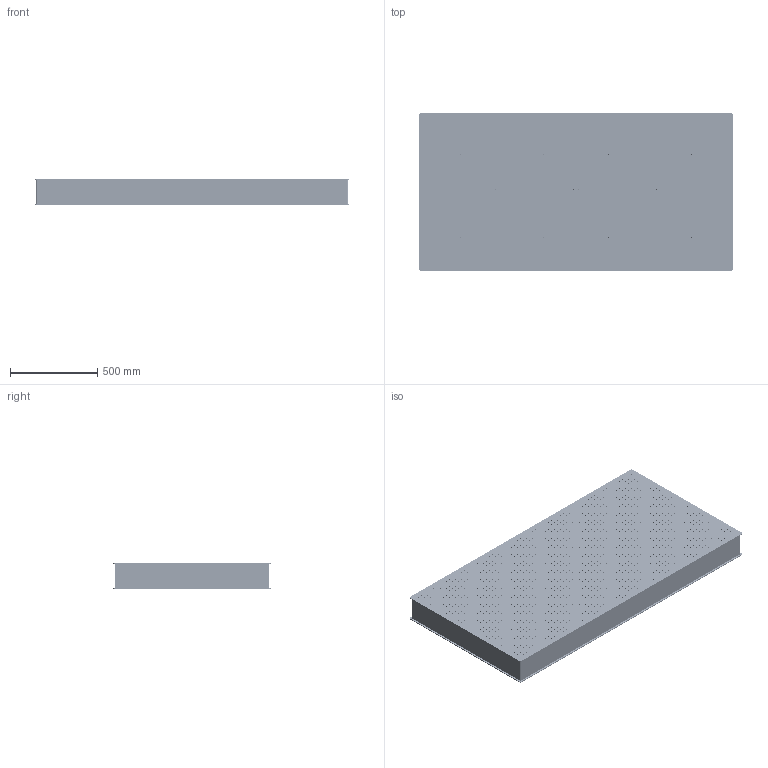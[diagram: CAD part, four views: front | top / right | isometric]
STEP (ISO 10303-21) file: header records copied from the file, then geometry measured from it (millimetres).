
FILE_DESCRIPTION (( 'STEP AP203' ), '1' );
FILE_NAME ('NTBR918-150 铁磁不锈钢面包板 AP203.STEP', '2025-02-13T06:32:25', ( '13701099104@139.COM' ), ( '' ), 'SwSTEP 2.0', 'SolidWorks 2021', '' );
FILE_SCHEMA (( 'CONFIG_CONTROL_DESIGN' ));
Products named in the file (1): NTBR918-150 铁磁不锈钢面包板 AP203
Bounding box: 1800 x 900 x 150 mm (x, y, z)
Surface area: 7447701.9 mm2 (no closed solid volume)
Topology: 0 solids, 30 shells, 4832 faces, 14712 edges, 9912 vertices
Faces by surface type: cylinder 4772, plane 60
Entity records: 180282 total; most frequent: DIRECTION 33922, CARTESIAN_POINT 29457, ORIENTED_EDGE 29064, EDGE_CURVE 14712, AXIS2_PLACEMENT_3D 14377, VERTEX_POINT 9912, EDGE_LOOP 9592, CIRCLE 9544
